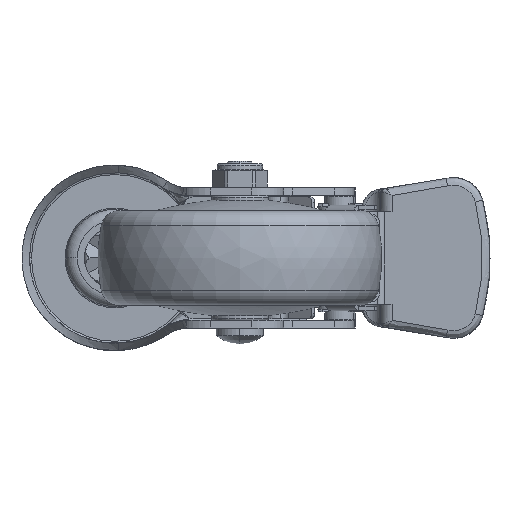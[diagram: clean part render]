
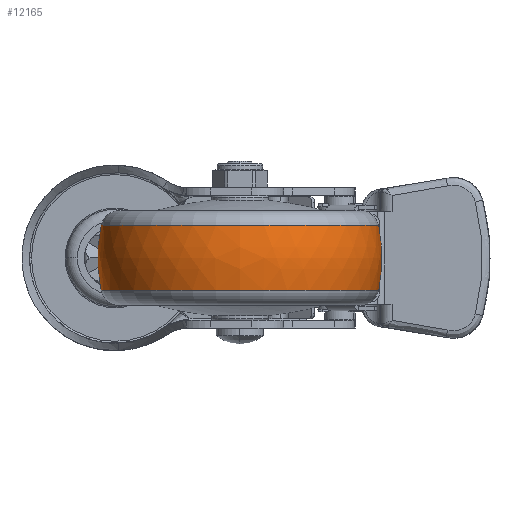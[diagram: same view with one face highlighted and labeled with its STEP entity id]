
A CAD part, front view. The second image highlights one B-rep face of the part: STEP entity #12165.
In plain terms, the highlighted free-form (B-spline) face has degree [3, 3] with [7, 4] control points.
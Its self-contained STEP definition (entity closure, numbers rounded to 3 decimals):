
#11438=CARTESIAN_POINT('',(-8.571,0.,0.));
#11439=DIRECTION('',(-1.,0.,0.));
#11440=DIRECTION('',(0.,1.,0.));
#11441=AXIS2_PLACEMENT_3D('',#11438,#11439,#11440);
#11453=CARTESIAN_POINT('',(0.,-2.5,0.));
#11454=DIRECTION('',(0.,0.,1.));
#11455=DIRECTION('',(0.214,0.977,0.));
#11456=AXIS2_PLACEMENT_3D('',#11453,#11454,#11455);
#11458=CARTESIAN_POINT('',(0.,2.5,0.));
#11459=DIRECTION('',(0.,0.,-1.));
#11460=DIRECTION('',(0.214,-0.977,0.));
#11461=AXIS2_PLACEMENT_3D('',#11458,#11459,#11460);
#11463=CARTESIAN_POINT('',(8.571,0.,0.));
#11464=DIRECTION('',(-1.,0.,0.));
#11465=DIRECTION('',(0.,1.,0.));
#11466=AXIS2_PLACEMENT_3D('',#11463,#11464,#11465);
#12029=CARTESIAN_POINT('',(8.571,36.571,0.));
#12031=VERTEX_POINT('',#12029);
#12032=CARTESIAN_POINT('',(-8.571,36.571,0.));
#12033=VERTEX_POINT('',#12032);
#12037=CARTESIAN_POINT('',(8.571,-36.571,0.));
#12039=VERTEX_POINT('',#12037);
#12040=CARTESIAN_POINT('',(-8.571,-36.571,0.));
#12041=VERTEX_POINT('',#12040);
#12129=CARTESIAN_POINT('',(-8.909,-36.423,
2.292));
#12130=CARTESIAN_POINT('',(-3.02,-37.766,
2.376));
#12131=CARTESIAN_POINT('',(3.02,-37.766,
2.376));
#12132=CARTESIAN_POINT('',(8.909,-36.423,
2.292));
#12133=CARTESIAN_POINT('',(-8.909,-37.834,
-20.123));
#12134=CARTESIAN_POINT('',(-3.02,-39.228,
-20.865));
#12135=CARTESIAN_POINT('',(3.02,-39.228,
-20.865));
#12136=CARTESIAN_POINT('',(8.909,-37.834,
-20.123));
#12137=CARTESIAN_POINT('',(-8.909,-22.459,
-36.495));
#12138=CARTESIAN_POINT('',(-3.02,-23.287,
-37.841));
#12139=CARTESIAN_POINT('',(3.02,-23.287,
-37.841));
#12140=CARTESIAN_POINT('',(8.909,-22.459,
-36.495));
#12141=CARTESIAN_POINT('',(-8.909,0.,
-36.495));
#12142=CARTESIAN_POINT('',(-3.02,0.,
-37.841));
#12143=CARTESIAN_POINT('',(3.02,0.,
-37.841));
#12144=CARTESIAN_POINT('',(8.909,0.,-36.495));
#12145=CARTESIAN_POINT('',(-8.909,22.459,
-36.495));
#12146=CARTESIAN_POINT('',(-3.02,23.287,
-37.841));
#12147=CARTESIAN_POINT('',(3.02,23.287,
-37.841));
#12148=CARTESIAN_POINT('',(8.909,22.459,
-36.495));
#12149=CARTESIAN_POINT('',(-8.909,37.834,
-20.123));
#12150=CARTESIAN_POINT('',(-3.02,39.228,
-20.865));
#12151=CARTESIAN_POINT('',(3.02,39.228,
-20.865));
#12152=CARTESIAN_POINT('',(8.909,37.834,
-20.123));
#12153=CARTESIAN_POINT('',(-8.909,36.423,
2.292));
#12154=CARTESIAN_POINT('',(-3.02,37.766,
2.376));
#12155=CARTESIAN_POINT('',(3.02,37.766,2.376));
#12156=CARTESIAN_POINT('',(8.909,36.423,2.292));
#12157=(BOUNDED_SURFACE()B_SPLINE_SURFACE(3,3,((#12129,#12130,#12131,#12132),(
#12133,#12134,#12135,#12136),(#12137,#12138,#12139,#12140),(#12141,#12142,
#12143,#12144),(#12145,#12146,#12147,#12148),(#12149,#12150,#12151,#12152),(
#12153,#12154,#12155,#12156)),.UNSPECIFIED.,.F.,.F.,.F.)B_SPLINE_SURFACE_WITH_KNOTS((4,3,4),(4,4),(0.,1.,2.),(0.,1.),.UNSPECIFIED.)GEOMETRIC_REPRESENTATION_ITEM()RATIONAL_B_SPLINE_SURFACE(((1.202,1.182,
1.182,1.202),(0.95,0.934,
0.934,0.95),(0.95,0.934,
0.934,0.95),(1.202,1.182,
1.182,1.202),(0.95,0.934,
0.934,0.95),(0.95,0.934,
0.934,0.95),(1.202,1.182,
1.182,1.202)))REPRESENTATION_ITEM('')SURFACE());
#12158=ORIENTED_EDGE('',*,*,#12119,.T.);
#12159=ORIENTED_EDGE('',*,*,#12072,.T.);
#12160=ORIENTED_EDGE('',*,*,#12123,.F.);
#12162=ORIENTED_EDGE('',*,*,#12161,.F.);
#12163=EDGE_LOOP('',(#12158,#12159,#12160,#12162));
#12164=FACE_OUTER_BOUND('',#12163,.F.);
#11442=CIRCLE('',#11441,36.571);
#11457=CIRCLE('',#11456,40.);
#11462=CIRCLE('',#11461,40.);
#11467=CIRCLE('',#11466,36.571);
#12072=EDGE_CURVE('',#12033,#12041,#11442,.T.);
#12119=EDGE_CURVE('',#12031,#12033,#11457,.T.);
#12123=EDGE_CURVE('',#12039,#12041,#11462,.T.);
#12161=EDGE_CURVE('',#12031,#12039,#11467,.T.);
#12165=ADVANCED_FACE('',(#12164),#12157,.T.);
